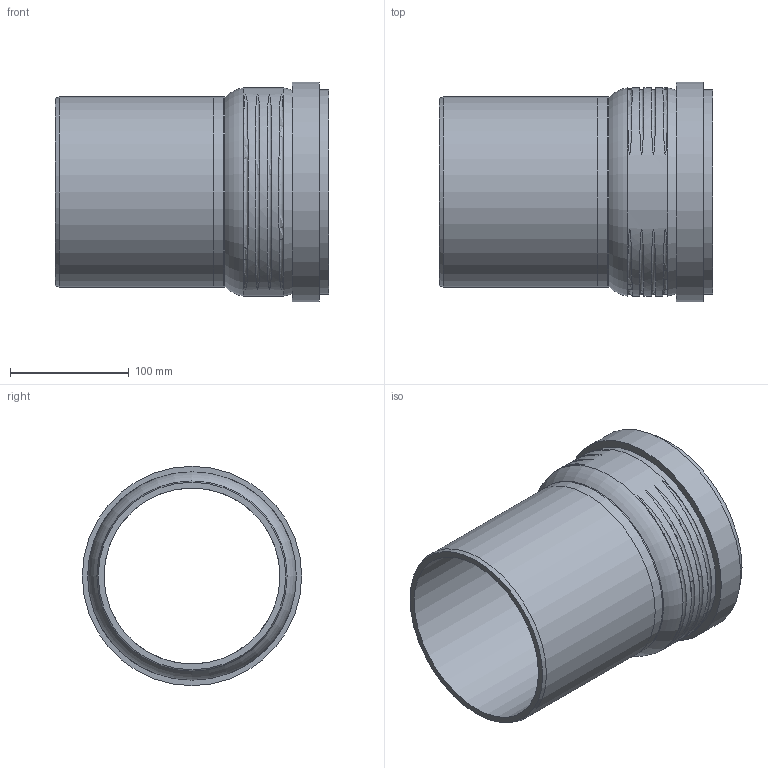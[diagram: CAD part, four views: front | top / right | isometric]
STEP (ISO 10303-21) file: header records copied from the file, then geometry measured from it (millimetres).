
FILE_DESCRIPTION(/* description */ (''),/* implementation_level */ '2;1');
FILE_NAME(/* name */ 'H:\Geberit-Teile\Export\PP_Rohr\stp\393700.stp',/* time_stamp */ '2017-02-13T16:10:12+01:00',/* author */ ('seihe2'),/* organization */ (''),/* preprocessor_version */ 'ST-DEVELOPER v15.2',/* originating_system */ 'Autodesk Inventor 2014',/* authorisation */ '');
FILE_SCHEMA (('AUTOMOTIVE_DESIGN { 1 0 10303 214 3 1 1 }'));
Length unit declared in the file: millimetre
Products named in the file (1): 393700
Bounding box: 230.6 x 184.86 x 184.86 mm (x, y, z)
Volume: 748252.3 mm3; surface area: 270423.5 mm2
Topology: 2 solids, 2 shells, 38 faces, 79 edges, 54 vertices
Faces by surface type: torus 18, cylinder 10, plane 8, cone 2
Full cylindrical faces by diameter (mm): 148.25 x2, 160.25 x2, 161.4 x1, 164.8 x1, 172.2 x1, 174.6 x1, 175.6 x1, 184.86 x1
Entity records: 2318 total; most frequent: CARTESIAN_POINT 1552, DIRECTION 128, ORIENTED_EDGE 118, EDGE_LOOP 70, AXIS2_PLACEMENT_3D 64, EDGE_CURVE 59, VERTEX_POINT 53, STYLED_ITEM 40
